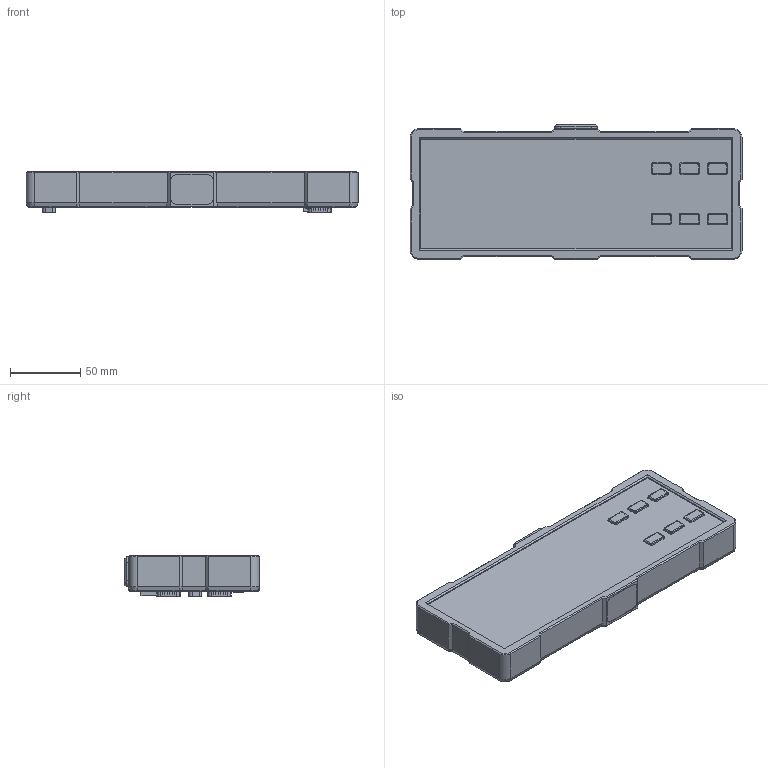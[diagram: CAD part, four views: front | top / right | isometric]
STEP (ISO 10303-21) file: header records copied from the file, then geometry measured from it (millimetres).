
FILE_DESCRIPTION(/* description */ (''),/* implementation_level */ '2;1');
FILE_NAME(/* name */ 'PREDVADECI_GUMA.step',/* time_stamp */ '2023-11-14T15:59:09+01:00',/* author */ (''),/* organization */ (''),/* preprocessor_version */ 'ST-DEVELOPER v20',/* originating_system */ 'Autodesk Translation Framework v12.14.0.127',/* authorisation */ '');
FILE_SCHEMA (('AUTOMOTIVE_DESIGN { 1 0 10303 214 3 1 1 }'));
Products named in the file (1): PREDVADECI
Bounding box: 235.8 x 95.6 x 29.08 mm (x, y, z)
Volume: 478035.7 mm3; surface area: 84518.4 mm2
Topology: 1 solids, 21 shells, 2298 faces, 5764 edges, 3621 vertices
Faces by surface type: plane 844, cylinder 689, bspline 481, torus 179, sphere 85, cone 20
Full cylindrical faces by diameter (mm): 0.84 x27, 1.04 x27, 1.14 x27, 2.2 x13, 3 x8, 5.035 x3, 5.6 x4, 6.147 x1
Entity records: 99219 total; most frequent: CARTESIAN_POINT 47240, ORIENTED_EDGE 11384, DIRECTION 9837, EDGE_CURVE 5692, VERTEX_POINT 3621, AXIS2_PLACEMENT_3D 3535, LINE 2767, VECTOR 2767
